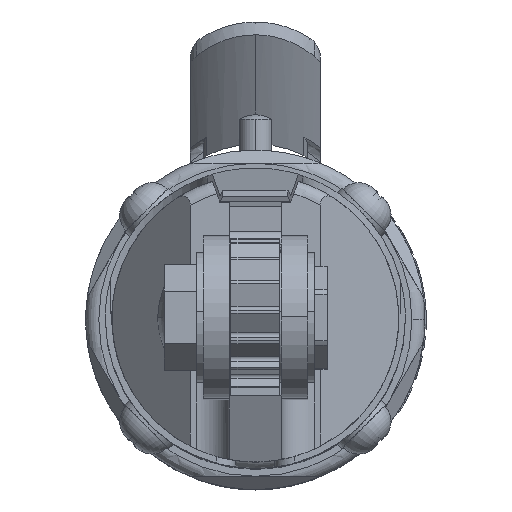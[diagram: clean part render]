
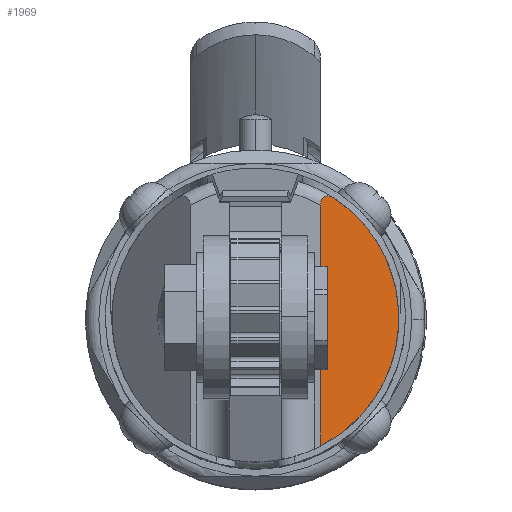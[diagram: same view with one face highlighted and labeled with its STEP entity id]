
A CAD part, top view. The second image highlights one B-rep face of the part: STEP entity #1969.
In plain terms, the highlighted planar face has unit normal (0.707, 0, 0.707).
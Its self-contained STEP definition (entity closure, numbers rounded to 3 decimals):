
#1006 = EDGE_CURVE ( 'NONE', #1007, #1008, #9877, .T. ) ;
#1007 = VERTEX_POINT ( 'NONE', #9879 ) ;
#1008 = VERTEX_POINT ( 'NONE', #9878 ) ;
#1565 = VERTEX_POINT ( 'NONE', #11219 ) ;
#1616 = EDGE_CURVE ( 'NONE', #1617, #1565, #11362, .T. ) ;
#1617 = VERTEX_POINT ( 'NONE', #11345 ) ;
#1828 = EDGE_CURVE ( 'NONE', #1617, #1829, #11752, .T. ) ;
#1829 = VERTEX_POINT ( 'NONE', #11748 ) ;
#1953 = ORIENTED_EDGE ( 'NONE', *, *, #1954, .T. ) ;
#1954 = EDGE_CURVE ( 'NONE', #1977, #1829, #11965, .T. ) ;
#1955 = ORIENTED_EDGE ( 'NONE', *, *, #1828, .F. ) ;
#1969 = ADVANCED_FACE ( 'NONE', ( #11990 ), #11992, .F. ) ;
#1970 = EDGE_LOOP ( 'NONE', ( #1971, #1972, #1974, #1975, #1953, #1955 ) ) ;
#1971 = ORIENTED_EDGE ( 'NONE', *, *, #1616, .T. ) ;
#1972 = ORIENTED_EDGE ( 'NONE', *, *, #1973, .T. ) ;
#1973 = EDGE_CURVE ( 'NONE', #1565, #1007, #11968, .T. ) ;
#1974 = ORIENTED_EDGE ( 'NONE', *, *, #1006, .T. ) ;
#1975 = ORIENTED_EDGE ( 'NONE', *, *, #1976, .T. ) ;
#1976 = EDGE_CURVE ( 'NONE', #1008, #1977, #12005, .T. ) ;
#1977 = VERTEX_POINT ( 'NONE', #12004 ) ;
#9873 = CARTESIAN_POINT ( 'NONE',  ( 21.967, 1.203, -107.967 ) ) ;
#9874 = CARTESIAN_POINT ( 'NONE',  ( 21.989, 0.802, -107.989 ) ) ;
#9875 = CARTESIAN_POINT ( 'NONE',  ( 22., 0.401, -108. ) ) ;
#9876 = CARTESIAN_POINT ( 'NONE',  ( 22., 0., -108. ) ) ;
#9877 =( BOUNDED_CURVE ( )  B_SPLINE_CURVE ( 3, ( #9876, #9875, #9874, #9873 ),
 .UNSPECIFIED., .F., .T. ) 
 B_SPLINE_CURVE_WITH_KNOTS ( ( 4, 4 ),
 ( 3.142, 3.196 ),
 .UNSPECIFIED. ) 
 CURVE ( )  GEOMETRIC_REPRESENTATION_ITEM ( )  RATIONAL_B_SPLINE_CURVE ( ( 1., 1., 1., 1. ) ) 
 REPRESENTATION_ITEM ( '' )  );
#9878 = CARTESIAN_POINT ( 'NONE',  ( 21.967, 1.203, -107.967 ) ) ;
#9879 = CARTESIAN_POINT ( 'NONE',  ( 22., 0., -108. ) ) ;
#11219 = CARTESIAN_POINT ( 'NONE',  ( 21.97, -1.155, -107.97 ) ) ;
#11341 = CARTESIAN_POINT ( 'NONE',  ( 21.97, -1.155, -107.97 ) ) ;
#11342 = CARTESIAN_POINT ( 'NONE',  ( 21.547, -9.19, -107.547 ) ) ;
#11343 = CARTESIAN_POINT ( 'NONE',  ( 17.167, -15.939, -103.167 ) ) ;
#11344 = CARTESIAN_POINT ( 'NONE',  ( 10., -19.596, -96. ) ) ;
#11345 = CARTESIAN_POINT ( 'NONE',  ( 10., -19.596, -96. ) ) ;
#11362 =( BOUNDED_CURVE ( )  B_SPLINE_CURVE ( 3, ( #11344, #11343, #11342, #11341 ),
 .UNSPECIFIED., .F., .T. ) 
 B_SPLINE_CURVE_WITH_KNOTS ( ( 4, 4 ),
 ( 2.043, 3.089 ),
 .UNSPECIFIED. ) 
 CURVE ( )  GEOMETRIC_REPRESENTATION_ITEM ( )  RATIONAL_B_SPLINE_CURVE ( ( 1., 0.911, 0.911, 1. ) ) 
 REPRESENTATION_ITEM ( '' )  );
#11748 = CARTESIAN_POINT ( 'NONE',  ( 10., 17.321, -96. ) ) ;
#11749 = DIRECTION ( 'NONE',  ( 0., 1., 0. ) ) ;
#11750 = VECTOR ( 'NONE', #11749, 1000. ) ;
#11751 = CARTESIAN_POINT ( 'NONE',  ( 10., -22., -96. ) ) ;
#11752 = LINE ( 'NONE', #11751, #11750 ) ;
#11944 = CARTESIAN_POINT ( 'NONE',  ( 10., 17.321, -96. ) ) ;
#11945 = CARTESIAN_POINT ( 'NONE',  ( 10., 17.476, -96. ) ) ;
#11946 = CARTESIAN_POINT ( 'NONE',  ( 10.014, 17.632, -96.014 ) ) ;
#11947 = CARTESIAN_POINT ( 'NONE',  ( 10.076, 17.927, -96.076 ) ) ;
#11948 = CARTESIAN_POINT ( 'NONE',  ( 10.125, 18.069, -96.125 ) ) ;
#11949 = CARTESIAN_POINT ( 'NONE',  ( 10.256, 18.315, -96.256 ) ) ;
#11950 = CARTESIAN_POINT ( 'NONE',  ( 10.339, 18.42, -96.339 ) ) ;
#11951 = CARTESIAN_POINT ( 'NONE',  ( 10.523, 18.585, -96.523 ) ) ;
#11952 = CARTESIAN_POINT ( 'NONE',  ( 10.626, 18.644, -96.626 ) ) ;
#11953 = CARTESIAN_POINT ( 'NONE',  ( 10.836, 18.723, -96.836 ) ) ;
#11954 = CARTESIAN_POINT ( 'NONE',  ( 10.946, 18.742, -96.946 ) ) ;
#11955 = CARTESIAN_POINT ( 'NONE',  ( 11.163, 18.749, -97.163 ) ) ;
#11956 = CARTESIAN_POINT ( 'NONE',  ( 11.273, 18.737, -97.273 ) ) ;
#11957 = CARTESIAN_POINT ( 'NONE',  ( 11.596, 18.664, -97.596 ) ) ;
#11958 = CARTESIAN_POINT ( 'NONE',  ( 11.801, 18.568, -97.801 ) ) ;
#11963 = CARTESIAN_POINT ( 'NONE',  ( 12., 18.439, -98. ) ) ;
#11965 = B_SPLINE_CURVE_WITH_KNOTS ( 'NONE', 3,
 ( #11963, #11958, #11957, #11956, #11955, #11954, #11953, #11952, #11951, #11950, #11949, #11948, #11947, #11946, #11945, #11944 ),
 .UNSPECIFIED., .F., .F.,
 ( 4, 2, 2, 2, 2, 2, 2, 4 ),
 ( 0., 0.001, 0.001, 0.002, 0.002, 0.003, 0.003, 0.004 ),
 .UNSPECIFIED. ) ;
#11968 =( BOUNDED_CURVE ( )  B_SPLINE_CURVE ( 3, ( #12010, #12009, #12008, #12007 ),
 .UNSPECIFIED., .F., .F. ) 
 B_SPLINE_CURVE_WITH_KNOTS ( ( 4, 4 ),
 ( 3.089, 3.142 ),
 .UNSPECIFIED. ) 
 CURVE ( )  GEOMETRIC_REPRESENTATION_ITEM ( )  RATIONAL_B_SPLINE_CURVE ( ( 1., 1., 1., 1. ) ) 
 REPRESENTATION_ITEM ( '' )  );
#11969 = DIRECTION ( 'NONE',  ( -0.707, 0., 0.707 ) ) ;
#11970 = DIRECTION ( 'NONE',  ( -0.707, 0., -0.707 ) ) ;
#11971 = CARTESIAN_POINT ( 'NONE',  ( 10., -22., -96. ) ) ;
#11972 = AXIS2_PLACEMENT_3D ( 'NONE', #11971, #11970, #11969 ) ;
#11990 = FACE_OUTER_BOUND ( 'NONE', #1970, .T. ) ;
#11992 = PLANE ( 'NONE',  #11972 ) ;
#12000 = CARTESIAN_POINT ( 'NONE',  ( 12., 18.439, -98. ) ) ;
#12001 = CARTESIAN_POINT ( 'NONE',  ( 17.995, 14.537, -103.995 ) ) ;
#12002 = CARTESIAN_POINT ( 'NONE',  ( 21.576, 8.345, -107.576 ) ) ;
#12003 = CARTESIAN_POINT ( 'NONE',  ( 21.967, 1.203, -107.967 ) ) ;
#12004 = CARTESIAN_POINT ( 'NONE',  ( 12., 18.439, -98. ) ) ;
#12005 =( BOUNDED_CURVE ( )  B_SPLINE_CURVE ( 3, ( #12003, #12002, #12001, #12000 ),
 .UNSPECIFIED., .F., .F. ) 
 B_SPLINE_CURVE_WITH_KNOTS ( ( 4, 4 ),
 ( 3.196, 4.135 ),
 .UNSPECIFIED. ) 
 CURVE ( )  GEOMETRIC_REPRESENTATION_ITEM ( )  RATIONAL_B_SPLINE_CURVE ( ( 1., 0.928, 0.928, 1. ) ) 
 REPRESENTATION_ITEM ( '' )  );
#12007 = CARTESIAN_POINT ( 'NONE',  ( 22., 0., -108. ) ) ;
#12008 = CARTESIAN_POINT ( 'NONE',  ( 22., -0.385, -108. ) ) ;
#12009 = CARTESIAN_POINT ( 'NONE',  ( 21.99, -0.77, -107.99 ) ) ;
#12010 = CARTESIAN_POINT ( 'NONE',  ( 21.97, -1.155, -107.97 ) ) ;
